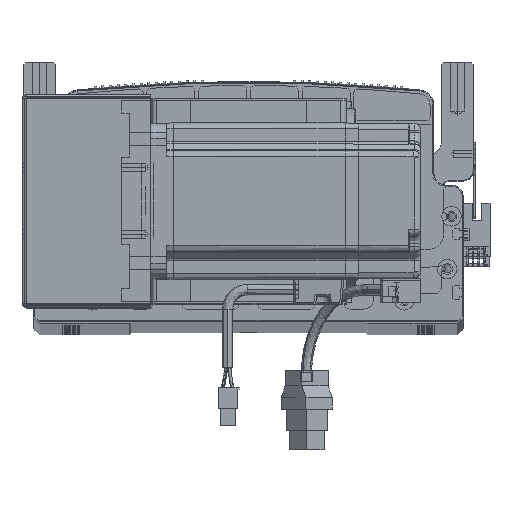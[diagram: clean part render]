
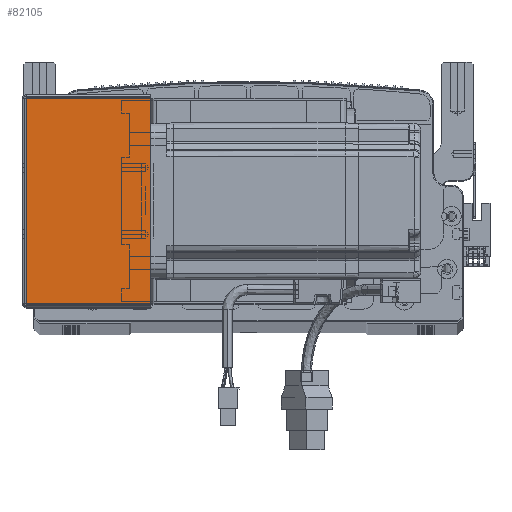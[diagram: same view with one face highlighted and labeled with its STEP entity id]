
A CAD part, top view. The second image highlights one B-rep face of the part: STEP entity #82105.
In plain terms, the highlighted planar face has unit normal (0, 0, 1) as drawn and (0, 0, -1) by its records, which use the part's own axes.
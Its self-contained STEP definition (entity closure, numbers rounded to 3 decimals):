
#28 = CARTESIAN_POINT ( 'NONE',  ( 64.5, 0., -205.5 ) ) ;
#8721 = VECTOR ( 'NONE', #69987, 1000. ) ;
#11291 = VECTOR ( 'NONE', #51051, 1000. ) ;
#11537 = VERTEX_POINT ( 'NONE', #39555 ) ;
#13802 = EDGE_CURVE ( 'NONE', #85151, #22105, #23361, .T. ) ;
#22105 = VERTEX_POINT ( 'NONE', #60759 ) ;
#22892 = DIRECTION ( 'NONE',  ( 1., 0., 0. ) ) ;
#23361 = LINE ( 'NONE', #30724, #41641 ) ;
#23442 = LINE ( 'NONE', #59192, #11291 ) ;
#25566 = ORIENTED_EDGE ( 'NONE', *, *, #50070, .T. ) ;
#29400 = ORIENTED_EDGE ( 'NONE', *, *, #49707, .F. ) ;
#30709 = PLANE ( 'NONE',  #95450 ) ;
#30724 = CARTESIAN_POINT ( 'NONE',  ( 0.737, 0., -205.5 ) ) ;
#36949 = EDGE_LOOP ( 'NONE', ( #62905, #42349, #25566, #29400 ) ) ;
#37895 = CARTESIAN_POINT ( 'NONE',  ( 0., 0., -205.5 ) ) ;
#38579 = DIRECTION ( 'NONE',  ( 0., -1., 0. ) ) ;
#38815 = CARTESIAN_POINT ( 'NONE',  ( 64.5, 105.293, -205.5 ) ) ;
#39555 = CARTESIAN_POINT ( 'NONE',  ( 64.5, 0.707, -205.5 ) ) ;
#40525 = VECTOR ( 'NONE', #48090, 1000. ) ;
#41641 = VECTOR ( 'NONE', #38579, 1000. ) ;
#42349 = ORIENTED_EDGE ( 'NONE', *, *, #67948, .T. ) ;
#45185 = VERTEX_POINT ( 'NONE', #38815 ) ;
#48090 = DIRECTION ( 'NONE',  ( 1., 0., 0. ) ) ;
#49707 = EDGE_CURVE ( 'NONE', #22105, #11537, #23442, .T. ) ;
#50070 = EDGE_CURVE ( 'NONE', #45185, #11537, #98620, .T. ) ;
#51051 = DIRECTION ( 'NONE',  ( 1., 0., 0. ) ) ;
#56848 = FACE_OUTER_BOUND ( 'NONE', #36949, .T. ) ;
#59192 = CARTESIAN_POINT ( 'NONE',  ( 0., 0.707, -205.5 ) ) ;
#60604 = DIRECTION ( 'NONE',  ( 0., 0., 1. ) ) ;
#60759 = CARTESIAN_POINT ( 'NONE',  ( 0.737, 0.707, -205.5 ) ) ;
#62905 = ORIENTED_EDGE ( 'NONE', *, *, #13802, .F. ) ;
#67948 = EDGE_CURVE ( 'NONE', #85151, #45185, #72159, .T. ) ;
#69987 = DIRECTION ( 'NONE',  ( 0., -1., 0. ) ) ;
#72159 = LINE ( 'NONE', #94591, #40525 ) ;
#82105 = ADVANCED_FACE ( 'NONE', ( #56848 ), #30709, .F. ) ;
#85151 = VERTEX_POINT ( 'NONE', #89944 ) ;
#89944 = CARTESIAN_POINT ( 'NONE',  ( 0.737, 105.293, -205.5 ) ) ;
#94591 = CARTESIAN_POINT ( 'NONE',  ( 0., 105.293, -205.5 ) ) ;
#95450 = AXIS2_PLACEMENT_3D ( 'NONE', #37895, #60604, #22892 ) ;
#98620 = LINE ( 'NONE', #28, #8721 ) ;
